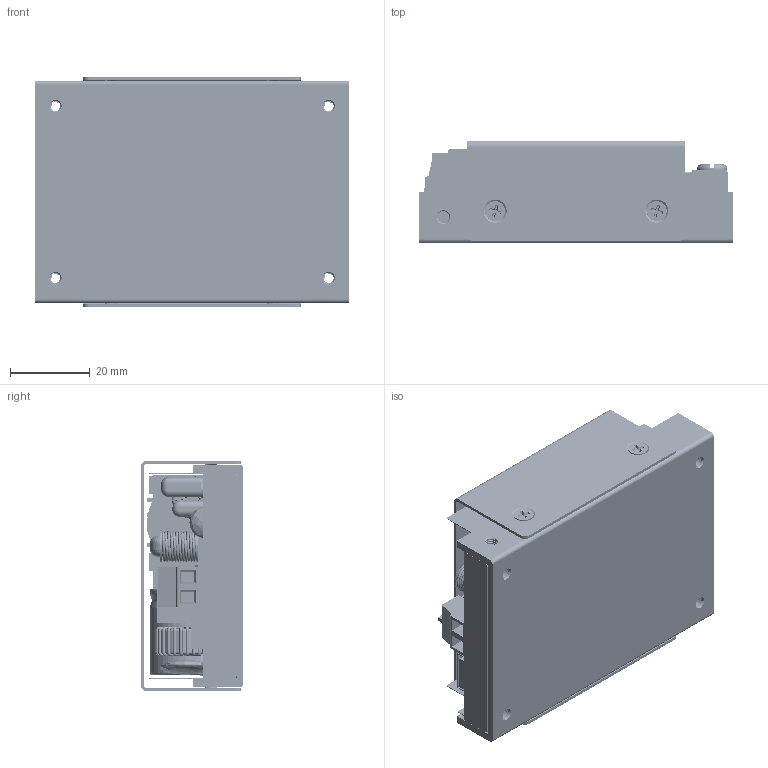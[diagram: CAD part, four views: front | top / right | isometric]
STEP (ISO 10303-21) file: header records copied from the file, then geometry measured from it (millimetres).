
FILE_DESCRIPTION (( 'STEP AP214' ), '1' );
FILE_NAME ('LFM200S(M)XXX-C0.STEP', '2025-04-10T00:30:31', ( 'cincon' ), ( '' ), 'SwSTEP 2.0', 'SolidWorks 2020', '' );
FILE_SCHEMA (( 'AUTOMOTIVE_DESIGN' ));
Length unit declared in the file: millimetre
Products named in the file (1): LFM200S(M)XXX-C0
Bounding box: 78.6 x 25.7 x 57.9 mm (x, y, z)
Surface area: 45112.2 mm2 (no closed solid volume)
Topology: 0 solids, 35 shells, 2899 faces, 8554 edges, 5589 vertices
Faces by surface type: cylinder 1179, plane 940, torus 554, bspline 130, cone 73, sphere 23
Entity records: 161685 total; most frequent: CARTESIAN_POINT 52967, ORIENTED_EDGE 17084, DIRECTION 15970, EDGE_CURVE 8546, AXIS2_PLACEMENT_3D 6330, VERTEX_POINT 5589, CIRCLE 3560, VECTOR 3310
